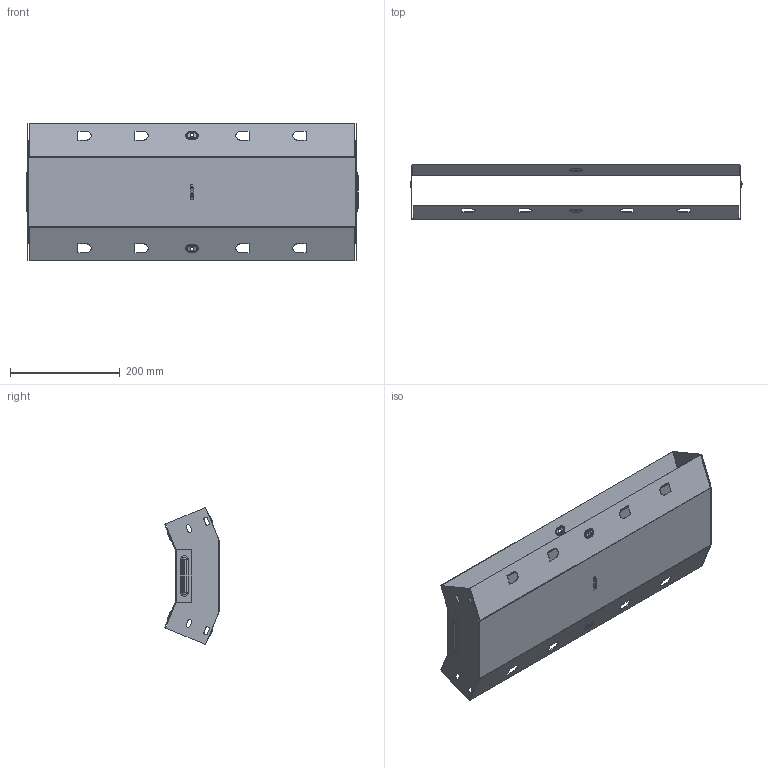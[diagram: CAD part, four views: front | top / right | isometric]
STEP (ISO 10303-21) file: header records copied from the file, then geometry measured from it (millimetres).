
FILE_DESCRIPTION (( 'STEP AP214' ), '1' );
FILE_NAME ('vi4580600_捘.STEP', '2019-06-10T08:30:50', ( '砐錪賧瘔蠈錪 Windows' ), ( '' ), 'SwSTEP 2.0', 'SolidWorks 2018', '' );
FILE_SCHEMA (( 'AUTOMOTIVE_DESIGN' ));
Length unit declared in the file: millimetre
Products named in the file (1): vi4580600_捘
Bounding box: 605.6 x 99.93 x 250.25 mm (x, y, z)
Volume: 248384.4 mm3; surface area: 625077.4 mm2
Topology: 2 solids, 2 shells, 468 faces, 1212 edges, 776 vertices
Faces by surface type: plane 254, cylinder 132, torus 64, bspline 18
Entity records: 15224 total; most frequent: CARTESIAN_POINT 3476, DIRECTION 2438, ORIENTED_EDGE 2424, EDGE_CURVE 1212, VECTOR 816, LINE 816, AXIS2_PLACEMENT_3D 811, VERTEX_POINT 776
